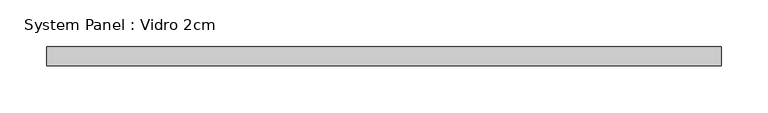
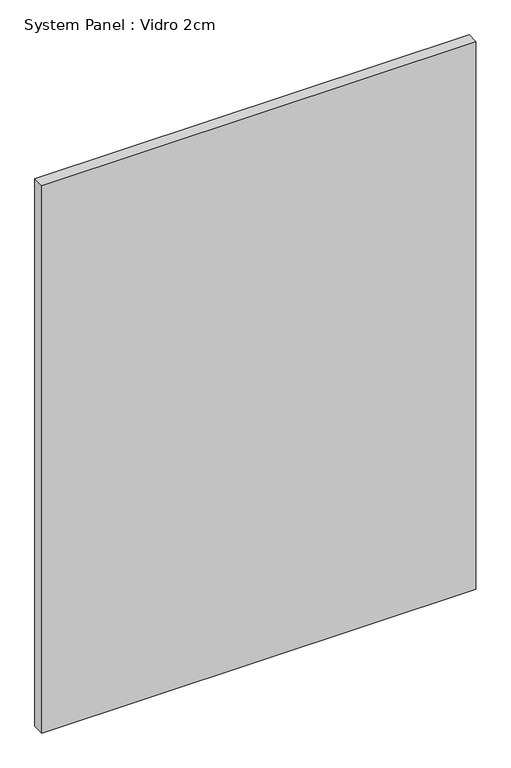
"""IFC4 building model written with IfcOpenShell, lengths in millimetres: plate geometry, System Panel : Vidro 2cm."""

from ifc_helpers import new_model, si_unit, origin, origin_with_axes, place, context, project, spatial, polyline, outline, extrude, source, transform, mapped, element, save


def system_panel_vidro_2cm_a1342aed(model_context):
    return source(origin(), model_context, "Body", "SweptSolid", [
        extrude(outline(polyline([(359.9999998, -20.0), (-359.9999998, -20.0), (-359.9999998, 0.0), (359.9999998, 0.0), (359.9999998, -20.0)])), origin_with_axes(), (0.0, 0.0, 1.0), 960.0),
    ])


if __name__ == "__main__":
    model = new_model("IFC4")
    model_context = context("Model", 3, world=origin())
    ifc_project = project(units=[si_unit("LENGTHUNIT", "METRE", prefix="MILLI")], contexts=[model_context])
    site = spatial("IfcSite", under=ifc_project)
    building = spatial("IfcBuilding", under=site)
    placement = place(None, origin())
    system_panel_vidro_2cm_shape = system_panel_vidro_2cm_a1342aed(model_context)
    element("IfcPlate", 1, ObjectType="System Panel : Vidro 2cm", at=placement, inside=building, context=model_context, shape_type="MappedRepresentation", body=[
        mapped(system_panel_vidro_2cm_shape, transform((0.0, 0.0, 0.0), x_axis=(1.0, 0.0, 0.0), y_axis=(0.0, 1.0, 0.0), z_axis=(0.0, 0.0, 1.0))),
    ])
    save(model, "model.ifc")
